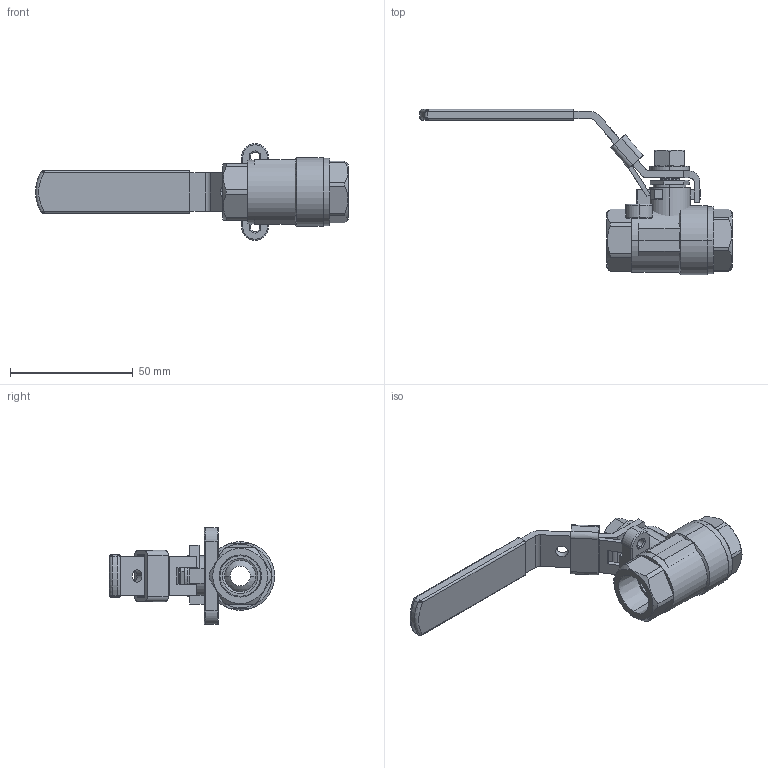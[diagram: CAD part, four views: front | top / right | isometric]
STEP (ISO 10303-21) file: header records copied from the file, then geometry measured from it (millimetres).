
FILE_DESCRIPTION (( 'STEP AP203' ), '1' );
FILE_NAME ('S2S-3.STEP', '2018-07-25T18:44:35', ( '' ), ( '' ), 'SwSTEP 2.0', 'SolidWorks 2017', '' );
FILE_SCHEMA (( 'CONFIG_CONTROL_DESIGN' ));
Length unit declared in the file: inch
Products named in the file (10): lockinghandle-s2s-small; m8 STAINLESS STEEL FLAT WASHER; m8 HEX NUT; S2S-2_3; lockinghandle-s2s-small_lock on; S2S-3; m8 STAINLESS STEEL FLAT WASHER_90965A190; m8 HEX NUT_91028A664; S2S-2_3_3-8<As Machined>
Assembly tree (5 placements, depth 2):
  lockinghandle-s2s-small
  m8 STAINLESS STEEL FLAT WASHER
  S2S-2_3
  S2S-3
    m8 HEX NUT
  S2S-3
    lockinghandle-s2s-small_lock on
    m8 STAINLESS STEEL FLAT WASHER_90965A190
    m8 HEX NUT_91028A664
    S2S-2_3_3-8<As Machined>
Bounding box: 127.21 x 67.18 x 39.37 mm (x, y, z)
Volume: 34158 mm3; surface area: 21979.9 mm2
Topology: 17 solids, 17 shells, 436 faces, 1130 edges, 727 vertices
Faces by surface type: cylinder 144, plane 129, bspline 101, cone 40, torus 20, sphere 2
Entity records: 52153 total; most frequent: CARTESIAN_POINT 41816, ORIENTED_EDGE 2240, DIRECTION 1658, EDGE_CURVE 1120, VERTEX_POINT 722, AXIS2_PLACEMENT_3D 616, EDGE_LOOP 460, ADVANCED_FACE 436
